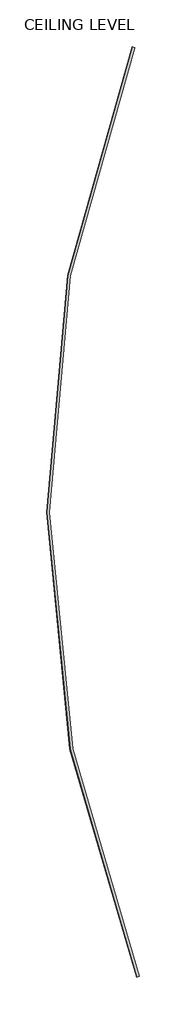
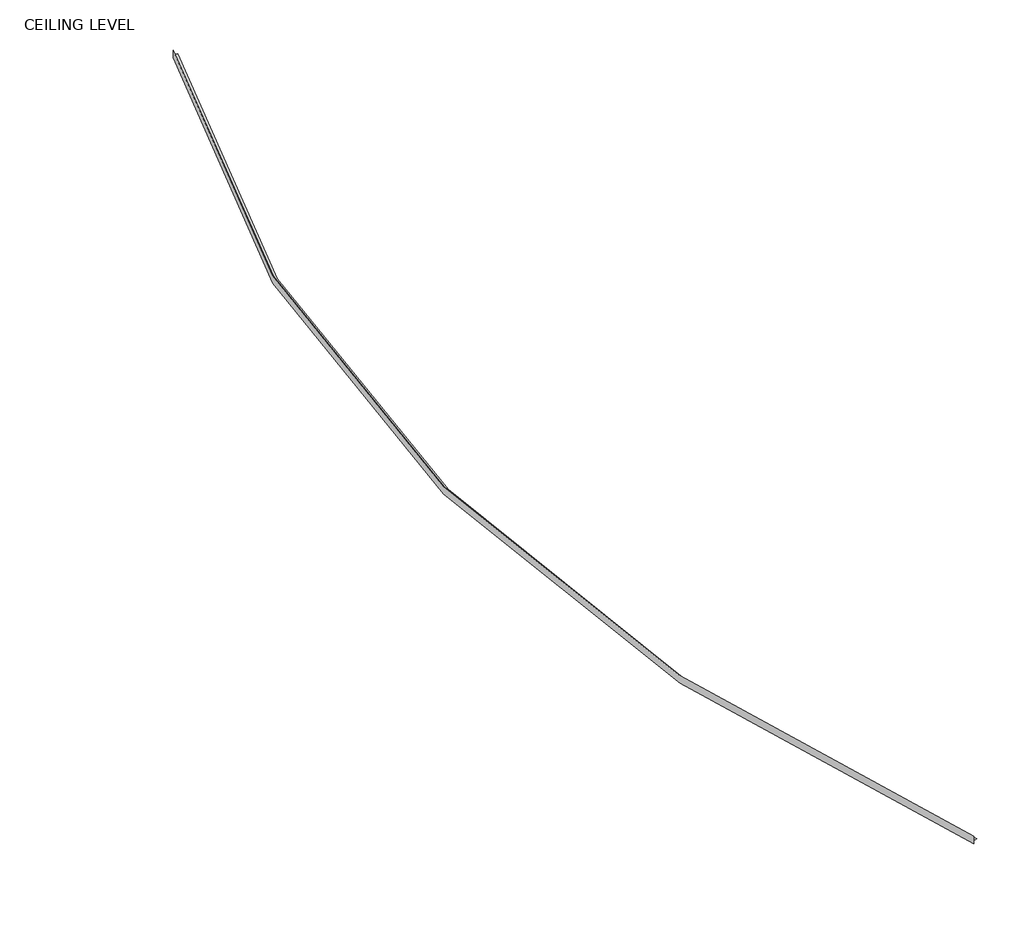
# One storey: 1 beam.
"""IFC4 building model written with IfcOpenShell, lengths in millimetres."""

from ifc_helpers import new_model, si_unit, origin, place, context, project, spatial, transform, mapped, element, save
from components import tr12_beam_tr12_beam_397432e7

model = new_model("IFC4")

# Units and contexts
model_context = context("Model", 3, world=origin())
ifc_project = project(units=[si_unit("LENGTHUNIT", "METRE", prefix="MILLI")], contexts=[model_context])

# Site, building, storey
site = spatial("IfcSite", under=ifc_project)
building = spatial("IfcBuilding", under=site)
storey = spatial("IfcBuildingStorey", under=building, Name="CEILING LEVEL", Elevation=3000.0)

# Beam
placement = place(None, origin())
tr12_beam_tr12_beam_shape = tr12_beam_tr12_beam_397432e7(model_context)
element("IfcBeam", 1, ObjectType="TR12 - Beam : TR12 - Beam", at=placement, inside=storey, context=model_context, shape_type="MappedRepresentation", body=[
    mapped(tr12_beam_tr12_beam_shape, transform((187849.2890933, 42217.8043433, 2611.0), x_axis=(-0.3601295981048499, -0.9329022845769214, 0.0), y_axis=(0.9329022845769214, -0.3601295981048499, 0.0), z_axis=(0.0, 0.0, 1.0))),
])

save(model, "model.ifc")
